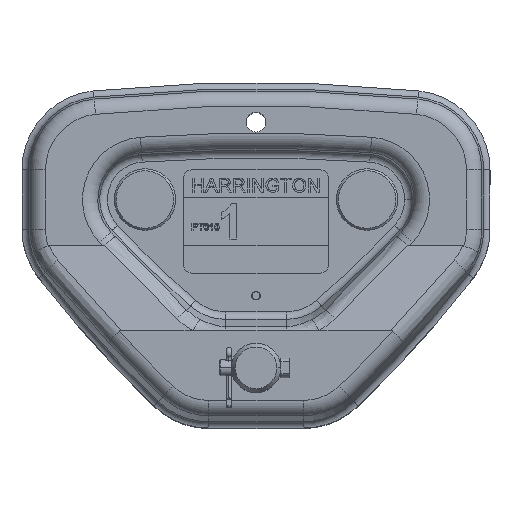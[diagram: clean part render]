
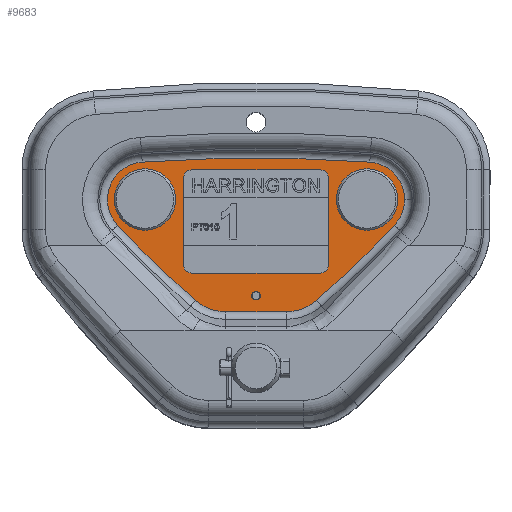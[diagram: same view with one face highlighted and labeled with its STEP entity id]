
A CAD part, top view. The second image highlights one B-rep face of the part: STEP entity #9683.
In plain terms, the highlighted planar face has unit normal (0, 0, 1).
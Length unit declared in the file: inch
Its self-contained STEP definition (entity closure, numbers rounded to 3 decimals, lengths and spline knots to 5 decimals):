
#339 = VERTEX_POINT ( 'NONE', #12039 ) ;
#640 = AXIS2_PLACEMENT_3D ( 'NONE', #29624, #27741, #6208 ) ;
#1384 = CARTESIAN_POINT ( 'NONE',  ( 2.20472, 3.34609, 0.15748 ) ) ;
#1700 = CIRCLE ( 'NONE', #4208, 0.74533 ) ;
#1804 = VECTOR ( 'NONE', #14788, 39.37008 ) ;
#1900 = AXIS2_PLACEMENT_3D ( 'NONE', #20743, #25772, #4389 ) ;
#1940 = EDGE_CURVE ( 'NONE', #7325, #28136, #10026, .T. ) ;
#2303 = CARTESIAN_POINT ( 'NONE',  ( 2.20472, 3.34609, 0.15748 ) ) ;
#2832 = CARTESIAN_POINT ( 'NONE',  ( 0.6053, 1.12059, 0.15748 ) ) ;
#2866 = AXIS2_PLACEMENT_3D ( 'NONE', #24064, #19231, #28684 ) ;
#3176 = CIRCLE ( 'NONE', #22731, 0.74533 ) ;
#3552 = ORIENTED_EDGE ( 'NONE', *, *, #29561, .T. ) ;
#3675 = ORIENTED_EDGE ( 'NONE', *, *, #22400, .T. ) ;
#3697 = ORIENTED_EDGE ( 'NONE', *, *, #22245, .T. ) ;
#4081 = CARTESIAN_POINT ( 'NONE',  ( 2.71654, 3.34646, 0.15748 ) ) ;
#4157 = VERTEX_POINT ( 'NONE', #4846 ) ;
#4208 = AXIS2_PLACEMENT_3D ( 'NONE', #1384, #30137, #10345 ) ;
#4389 = DIRECTION ( 'NONE',  ( 1., 0., 0. ) ) ;
#4438 = DIRECTION ( 'NONE',  ( 1., 0., 0. ) ) ;
#4846 = CARTESIAN_POINT ( 'NONE',  ( -1.20174, 1.34554, 0.15748 ) ) ;
#4894 = CARTESIAN_POINT ( 'NONE',  ( 0., -27.07215, 0.15748 ) ) ;
#4994 = EDGE_CURVE ( 'NONE', #17236, #339, #8913, .T. ) ;
#5025 = ORIENTED_EDGE ( 'NONE', *, *, #9931, .T. ) ;
#5408 = FACE_BOUND ( 'NONE', #28977, .T. ) ;
#5415 = CARTESIAN_POINT ( 'NONE',  ( 0., 1.43701, 0.15748 ) ) ;
#5455 = CARTESIAN_POINT ( 'NONE',  ( -0.08465, 1.43701, 0.15748 ) ) ;
#5570 = DIRECTION ( 'NONE',  ( 1., 0., 0. ) ) ;
#5646 = CIRCLE ( 'NONE', #640, 0.9032 ) ;
#6208 = DIRECTION ( 'NONE',  ( 1., 0., 0. ) ) ;
#6247 = CARTESIAN_POINT ( 'NONE',  ( 0.08465, 1.43701, 0.15748 ) ) ;
#6479 = VERTEX_POINT ( 'NONE', #6247 ) ;
#6485 = ORIENTED_EDGE ( 'NONE', *, *, #10877, .F. ) ;
#6696 = EDGE_CURVE ( 'NONE', #6479, #18417, #19260, .T. ) ;
#6859 = CIRCLE ( 'NONE', #9868, 23.52682 ) ;
#7325 = VERTEX_POINT ( 'NONE', #10871 ) ;
#7375 = CIRCLE ( 'NONE', #2866, 0.9032 ) ;
#7794 = FACE_OUTER_BOUND ( 'NONE', #13634, .T. ) ;
#7863 = CARTESIAN_POINT ( 'NONE',  ( -2.74583, 2.83353, 0.15748 ) ) ;
#7903 = DIRECTION ( 'NONE',  ( 0., 0., 1. ) ) ;
#8094 = DIRECTION ( 'NONE',  ( 0., 0., 1. ) ) ;
#8311 = ORIENTED_EDGE ( 'NONE', *, *, #15967, .T. ) ;
#8322 = EDGE_CURVE ( 'NONE', #13430, #20650, #24637, .T. ) ;
#8623 = CIRCLE ( 'NONE', #21131, 0.08465 ) ;
#8651 = DIRECTION ( 'NONE',  ( 0., 0., 1. ) ) ;
#8913 = CIRCLE ( 'NONE', #1900, 0.51181 ) ;
#9061 = DIRECTION ( 'NONE',  ( 0., 0., 1. ) ) ;
#9278 = ORIENTED_EDGE ( 'NONE', *, *, #14581, .T. ) ;
#9394 = EDGE_LOOP ( 'NONE', ( #6485, #17308 ) ) ;
#9461 = EDGE_CURVE ( 'NONE', #28689, #30369, #6859, .T. ) ;
#9624 = ORIENTED_EDGE ( 'NONE', *, *, #1940, .T. ) ;
#9683 = ADVANCED_FACE ( 'NONE', ( #17678, #24731, #7794, #5408 ), #20010, .T. ) ;
#9688 = AXIS2_PLACEMENT_3D ( 'NONE', #10063, #22123, #20082 ) ;
#9725 = DIRECTION ( 'NONE',  ( 0., 0., 1. ) ) ;
#9868 = AXIS2_PLACEMENT_3D ( 'NONE', #19935, #8651, #22437 ) ;
#9931 = EDGE_CURVE ( 'NONE', #20650, #28689, #7375, .T. ) ;
#9944 = DIRECTION ( 'NONE',  ( 0., 0., 1. ) ) ;
#10026 = CIRCLE ( 'NONE', #16565, 31.24336 ) ;
#10063 = CARTESIAN_POINT ( 'NONE',  ( 14.33462, 19.01282, 0.15748 ) ) ;
#10345 = DIRECTION ( 'NONE',  ( 1., 0., 0. ) ) ;
#10871 = CARTESIAN_POINT ( 'NONE',  ( 2.2586, 4.08946, 0.15748 ) ) ;
#10877 = EDGE_CURVE ( 'NONE', #339, #17236, #22745, .T. ) ;
#11811 = VERTEX_POINT ( 'NONE', #4081 ) ;
#12039 = CARTESIAN_POINT ( 'NONE',  ( -2.71654, 3.34646, 0.15748 ) ) ;
#12121 = AXIS2_PLACEMENT_3D ( 'NONE', #18794, #31048, #14253 ) ;
#12379 = CARTESIAN_POINT ( 'NONE',  ( -0.6053, 1.12059, 0.15748 ) ) ;
#12461 = VERTEX_POINT ( 'NONE', #18639 ) ;
#12485 = DIRECTION ( 'NONE',  ( 1., 0., 0. ) ) ;
#12545 = EDGE_LOOP ( 'NONE', ( #24242, #24820 ) ) ;
#13430 = VERTEX_POINT ( 'NONE', #12379 ) ;
#13634 = EDGE_LOOP ( 'NONE', ( #29261, #27147, #3552, #9624, #3675, #8311, #3697, #21526, #5025 ) ) ;
#13950 = DIRECTION ( 'NONE',  ( 1., 0., 0. ) ) ;
#14253 = DIRECTION ( 'NONE',  ( 1., 0., 0. ) ) ;
#14267 = AXIS2_PLACEMENT_3D ( 'NONE', #15069, #9725, #24613 ) ;
#14581 = EDGE_CURVE ( 'NONE', #18417, #6479, #8623, .T. ) ;
#14788 = DIRECTION ( 'NONE',  ( 1., 0., 0. ) ) ;
#14839 = CARTESIAN_POINT ( 'NONE',  ( -2.20472, 3.34609, 0.15748 ) ) ;
#15069 = CARTESIAN_POINT ( 'NONE',  ( -2.20472, 3.34646, 0.15748 ) ) ;
#15330 = AXIS2_PLACEMENT_3D ( 'NONE', #30920, #9061, #13950 ) ;
#15967 = EDGE_CURVE ( 'NONE', #27800, #4157, #28248, .T. ) ;
#16565 = AXIS2_PLACEMENT_3D ( 'NONE', #4894, #9944, #4438 ) ;
#16916 = DIRECTION ( 'NONE',  ( 0., 0., -1. ) ) ;
#17236 = VERTEX_POINT ( 'NONE', #19298 ) ;
#17308 = ORIENTED_EDGE ( 'NONE', *, *, #4994, .F. ) ;
#17678 = FACE_BOUND ( 'NONE', #12545, .T. ) ;
#17847 = VERTEX_POINT ( 'NONE', #23424 ) ;
#17888 = AXIS2_PLACEMENT_3D ( 'NONE', #26950, #8094, #5570 ) ;
#18417 = VERTEX_POINT ( 'NONE', #5455 ) ;
#18458 = CARTESIAN_POINT ( 'NONE',  ( 0., 1.43701, 0.15748 ) ) ;
#18639 = CARTESIAN_POINT ( 'NONE',  ( 1.69291, 3.34646, 0.15748 ) ) ;
#18791 = EDGE_CURVE ( 'NONE', #12461, #11811, #20612, .T. ) ;
#18794 = CARTESIAN_POINT ( 'NONE',  ( 2.20472, 3.34646, 0.15748 ) ) ;
#19231 = DIRECTION ( 'NONE',  ( 0., 0., 1. ) ) ;
#19260 = CIRCLE ( 'NONE', #26799, 0.08465 ) ;
#19298 = CARTESIAN_POINT ( 'NONE',  ( -1.69291, 3.34646, 0.15748 ) ) ;
#19756 = CARTESIAN_POINT ( 'NONE',  ( -2.2586, 4.08946, 0.15748 ) ) ;
#19935 = CARTESIAN_POINT ( 'NONE',  ( -14.33462, 19.01282, 0.15748 ) ) ;
#20010 = PLANE ( 'NONE',  #17888 ) ;
#20082 = DIRECTION ( 'NONE',  ( 1., 0., 0. ) ) ;
#20612 = CIRCLE ( 'NONE', #12121, 0.51181 ) ;
#20650 = VERTEX_POINT ( 'NONE', #2832 ) ;
#20743 = CARTESIAN_POINT ( 'NONE',  ( -2.20472, 3.34646, 0.15748 ) ) ;
#21131 = AXIS2_PLACEMENT_3D ( 'NONE', #18458, #21415, #23464 ) ;
#21208 = AXIS2_PLACEMENT_3D ( 'NONE', #14839, #7903, #12485 ) ;
#21415 = DIRECTION ( 'NONE',  ( 0., 0., -1. ) ) ;
#21526 = ORIENTED_EDGE ( 'NONE', *, *, #8322, .T. ) ;
#21757 = DIRECTION ( 'NONE',  ( 1., 0., 0. ) ) ;
#22122 = CARTESIAN_POINT ( 'NONE',  ( 0.6053, 1.12059, 0.15748 ) ) ;
#22123 = DIRECTION ( 'NONE',  ( 0., 0., 1. ) ) ;
#22245 = EDGE_CURVE ( 'NONE', #4157, #13430, #5646, .T. ) ;
#22400 = EDGE_CURVE ( 'NONE', #28136, #27800, #29775, .T. ) ;
#22437 = DIRECTION ( 'NONE',  ( 1., 0., 0. ) ) ;
#22686 = CARTESIAN_POINT ( 'NONE',  ( 1.20174, 1.34554, 0.15748 ) ) ;
#22731 = AXIS2_PLACEMENT_3D ( 'NONE', #2303, #28407, #30595 ) ;
#22745 = CIRCLE ( 'NONE', #14267, 0.51181 ) ;
#23001 = EDGE_CURVE ( 'NONE', #30369, #17847, #3176, .T. ) ;
#23424 = CARTESIAN_POINT ( 'NONE',  ( 2.95005, 3.34609, 0.15748 ) ) ;
#23464 = DIRECTION ( 'NONE',  ( 1., 0., 0. ) ) ;
#24064 = CARTESIAN_POINT ( 'NONE',  ( 0.6053, 2.02379, 0.15748 ) ) ;
#24242 = ORIENTED_EDGE ( 'NONE', *, *, #18791, .F. ) ;
#24613 = DIRECTION ( 'NONE',  ( 1., 0., 0. ) ) ;
#24637 = LINE ( 'NONE', #22122, #1804 ) ;
#24731 = FACE_BOUND ( 'NONE', #9394, .T. ) ;
#24820 = ORIENTED_EDGE ( 'NONE', *, *, #30797, .F. ) ;
#25772 = DIRECTION ( 'NONE',  ( 0., 0., 1. ) ) ;
#26799 = AXIS2_PLACEMENT_3D ( 'NONE', #5415, #16916, #21757 ) ;
#26816 = ORIENTED_EDGE ( 'NONE', *, *, #6696, .T. ) ;
#26950 = CARTESIAN_POINT ( 'NONE',  ( 14.33462, 19.01282, 0.15748 ) ) ;
#27147 = ORIENTED_EDGE ( 'NONE', *, *, #23001, .T. ) ;
#27741 = DIRECTION ( 'NONE',  ( 0., 0., 1. ) ) ;
#27800 = VERTEX_POINT ( 'NONE', #7863 ) ;
#28136 = VERTEX_POINT ( 'NONE', #19756 ) ;
#28248 = CIRCLE ( 'NONE', #9688, 23.52682 ) ;
#28407 = DIRECTION ( 'NONE',  ( 0., 0., 1. ) ) ;
#28684 = DIRECTION ( 'NONE',  ( 1., 0., 0. ) ) ;
#28689 = VERTEX_POINT ( 'NONE', #22686 ) ;
#28977 = EDGE_LOOP ( 'NONE', ( #9278, #26816 ) ) ;
#29261 = ORIENTED_EDGE ( 'NONE', *, *, #9461, .T. ) ;
#29561 = EDGE_CURVE ( 'NONE', #17847, #7325, #1700, .T. ) ;
#29624 = CARTESIAN_POINT ( 'NONE',  ( -0.6053, 2.02379, 0.15748 ) ) ;
#29775 = CIRCLE ( 'NONE', #21208, 0.74533 ) ;
#30137 = DIRECTION ( 'NONE',  ( 0., 0., 1. ) ) ;
#30333 = CARTESIAN_POINT ( 'NONE',  ( 2.74583, 2.83353, 0.15748 ) ) ;
#30361 = CIRCLE ( 'NONE', #15330, 0.51181 ) ;
#30369 = VERTEX_POINT ( 'NONE', #30333 ) ;
#30595 = DIRECTION ( 'NONE',  ( 1., 0., 0. ) ) ;
#30797 = EDGE_CURVE ( 'NONE', #11811, #12461, #30361, .T. ) ;
#30920 = CARTESIAN_POINT ( 'NONE',  ( 2.20472, 3.34646, 0.15748 ) ) ;
#31048 = DIRECTION ( 'NONE',  ( 0., 0., 1. ) ) ;
